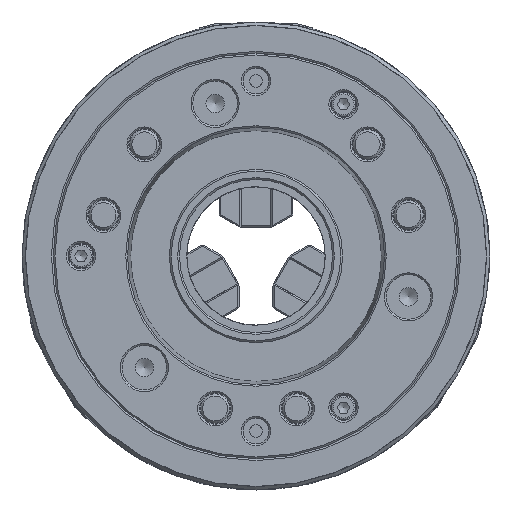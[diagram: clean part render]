
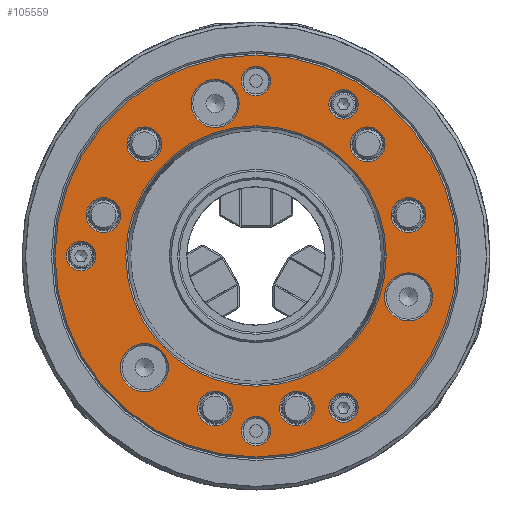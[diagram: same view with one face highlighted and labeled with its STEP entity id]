
A CAD part, front view. The second image highlights one B-rep face of the part: STEP entity #105559.
In plain terms, the highlighted planar face has unit normal (0, -1, 0).
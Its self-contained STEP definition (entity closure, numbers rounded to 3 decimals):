
#28893=FACE_BOUND('',#37678,.T.);
#28894=FACE_BOUND('',#37679,.T.);
#28895=FACE_BOUND('',#37680,.T.);
#28896=FACE_BOUND('',#37681,.T.);
#28897=FACE_BOUND('',#37682,.T.);
#28898=FACE_BOUND('',#37683,.T.);
#28899=FACE_BOUND('',#37684,.T.);
#28900=FACE_BOUND('',#37685,.T.);
#28901=FACE_BOUND('',#37686,.T.);
#28902=FACE_BOUND('',#37687,.T.);
#28903=FACE_BOUND('',#37688,.T.);
#28904=FACE_BOUND('',#37689,.T.);
#28905=FACE_BOUND('',#37690,.T.);
#28906=FACE_BOUND('',#37691,.T.);
#28907=FACE_BOUND('',#37692,.T.);
#32424=FACE_OUTER_BOUND('',#37677,.T.);
#37677=EDGE_LOOP('',(#88712));
#37678=EDGE_LOOP('',(#88713));
#37679=EDGE_LOOP('',(#88714));
#37680=EDGE_LOOP('',(#88715));
#37681=EDGE_LOOP('',(#88716));
#37682=EDGE_LOOP('',(#88717));
#37683=EDGE_LOOP('',(#88718));
#37684=EDGE_LOOP('',(#88719));
#37685=EDGE_LOOP('',(#88720));
#37686=EDGE_LOOP('',(#88721));
#37687=EDGE_LOOP('',(#88722));
#37688=EDGE_LOOP('',(#88723));
#37689=EDGE_LOOP('',(#88724));
#37690=EDGE_LOOP('',(#88725));
#37691=EDGE_LOOP('',(#88726));
#37692=EDGE_LOOP('',(#88727));
#40226=CIRCLE('',#113276,109.1);
#40230=CIRCLE('',#113290,70.693);
#40233=CIRCLE('',#113295,7.95);
#40234=CIRCLE('',#113297,9.45);
#40235=CIRCLE('',#113299,9.45);
#40236=CIRCLE('',#113301,13.05);
#40237=CIRCLE('',#113303,7.95);
#40238=CIRCLE('',#113305,9.45);
#40239=CIRCLE('',#113307,9.45);
#40240=CIRCLE('',#113309,9.45);
#40241=CIRCLE('',#113311,9.45);
#40242=CIRCLE('',#113313,13.05);
#40243=CIRCLE('',#113315,13.05);
#40244=CIRCLE('',#113317,7.95);
#40245=CIRCLE('',#113319,7.95);
#40246=CIRCLE('',#113321,7.95);
#47610=VERTEX_POINT('',#169364);
#47614=VERTEX_POINT('',#169382);
#47617=VERTEX_POINT('',#169390);
#47618=VERTEX_POINT('',#169393);
#47619=VERTEX_POINT('',#169396);
#47620=VERTEX_POINT('',#169399);
#47621=VERTEX_POINT('',#169402);
#47622=VERTEX_POINT('',#169405);
#47623=VERTEX_POINT('',#169408);
#47624=VERTEX_POINT('',#169411);
#47625=VERTEX_POINT('',#169414);
#47626=VERTEX_POINT('',#169417);
#47627=VERTEX_POINT('',#169420);
#47628=VERTEX_POINT('',#169423);
#47629=VERTEX_POINT('',#169426);
#47630=VERTEX_POINT('',#169429);
#61838=EDGE_CURVE('',#47610,#47610,#40226,.T.);
#61842=EDGE_CURVE('',#47614,#47614,#40230,.T.);
#61845=EDGE_CURVE('',#47617,#47617,#40233,.T.);
#61846=EDGE_CURVE('',#47618,#47618,#40234,.T.);
#61847=EDGE_CURVE('',#47619,#47619,#40235,.T.);
#61848=EDGE_CURVE('',#47620,#47620,#40236,.T.);
#61849=EDGE_CURVE('',#47621,#47621,#40237,.T.);
#61850=EDGE_CURVE('',#47622,#47622,#40238,.T.);
#61851=EDGE_CURVE('',#47623,#47623,#40239,.T.);
#61852=EDGE_CURVE('',#47624,#47624,#40240,.T.);
#61853=EDGE_CURVE('',#47625,#47625,#40241,.T.);
#61854=EDGE_CURVE('',#47626,#47626,#40242,.T.);
#61855=EDGE_CURVE('',#47627,#47627,#40243,.T.);
#61856=EDGE_CURVE('',#47628,#47628,#40244,.T.);
#61857=EDGE_CURVE('',#47629,#47629,#40245,.T.);
#61858=EDGE_CURVE('',#47630,#47630,#40246,.T.);
#88712=ORIENTED_EDGE('',*,*,#61838,.T.);
#88713=ORIENTED_EDGE('',*,*,#61858,.T.);
#88714=ORIENTED_EDGE('',*,*,#61857,.T.);
#88715=ORIENTED_EDGE('',*,*,#61856,.T.);
#88716=ORIENTED_EDGE('',*,*,#61855,.T.);
#88717=ORIENTED_EDGE('',*,*,#61854,.T.);
#88718=ORIENTED_EDGE('',*,*,#61853,.T.);
#88719=ORIENTED_EDGE('',*,*,#61852,.T.);
#88720=ORIENTED_EDGE('',*,*,#61851,.T.);
#88721=ORIENTED_EDGE('',*,*,#61850,.T.);
#88722=ORIENTED_EDGE('',*,*,#61849,.T.);
#88723=ORIENTED_EDGE('',*,*,#61848,.T.);
#88724=ORIENTED_EDGE('',*,*,#61847,.T.);
#88725=ORIENTED_EDGE('',*,*,#61846,.T.);
#88726=ORIENTED_EDGE('',*,*,#61845,.T.);
#88727=ORIENTED_EDGE('',*,*,#61842,.T.);
#101140=PLANE('',#113323);
#105559=ADVANCED_FACE('',(#32424,#28893,#28894,#28895,#28896,#28897,#28898,
#28899,#28900,#28901,#28902,#28903,#28904,#28905,#28906,#28907),#101140,
 .T.);
#113276=AXIS2_PLACEMENT_3D('',#169365,#136295,#136296);
#113290=AXIS2_PLACEMENT_3D('',#169383,#136323,#136324);
#113295=AXIS2_PLACEMENT_3D('',#169391,#136333,#136334);
#113297=AXIS2_PLACEMENT_3D('',#169394,#136337,#136338);
#113299=AXIS2_PLACEMENT_3D('',#169397,#136341,#136342);
#113301=AXIS2_PLACEMENT_3D('',#169400,#136345,#136346);
#113303=AXIS2_PLACEMENT_3D('',#169403,#136349,#136350);
#113305=AXIS2_PLACEMENT_3D('',#169406,#136353,#136354);
#113307=AXIS2_PLACEMENT_3D('',#169409,#136357,#136358);
#113309=AXIS2_PLACEMENT_3D('',#169412,#136361,#136362);
#113311=AXIS2_PLACEMENT_3D('',#169415,#136365,#136366);
#113313=AXIS2_PLACEMENT_3D('',#169418,#136369,#136370);
#113315=AXIS2_PLACEMENT_3D('',#169421,#136373,#136374);
#113317=AXIS2_PLACEMENT_3D('',#169424,#136377,#136378);
#113319=AXIS2_PLACEMENT_3D('',#169427,#136381,#136382);
#113321=AXIS2_PLACEMENT_3D('',#169430,#136385,#136386);
#113323=AXIS2_PLACEMENT_3D('',#169432,#136389,#136390);
#136295=DIRECTION('center_axis',(0.,-1.,0.));
#136296=DIRECTION('ref_axis',(-0.814,0.,0.581));
#136323=DIRECTION('center_axis',(0.,1.,0.));
#136324=DIRECTION('ref_axis',(-0.814,0.,-0.581));
#136333=DIRECTION('center_axis',(0.,1.,0.));
#136334=DIRECTION('ref_axis',(-0.814,0.,
-0.581));
#136337=DIRECTION('center_axis',(0.,1.,0.));
#136338=DIRECTION('ref_axis',(-0.814,0.,-0.581));
#136341=DIRECTION('center_axis',(0.,1.,0.));
#136342=DIRECTION('ref_axis',(0.814,0.,0.581));
#136345=DIRECTION('center_axis',(0.,1.,0.));
#136346=DIRECTION('ref_axis',(0.814,0.,0.581));
#136349=DIRECTION('center_axis',(0.,1.,0.));
#136350=DIRECTION('ref_axis',(-0.814,0.,
-0.581));
#136353=DIRECTION('center_axis',(0.,1.,0.));
#136354=DIRECTION('ref_axis',(-0.096,0.,0.995));
#136357=DIRECTION('center_axis',(0.,1.,0.));
#136358=DIRECTION('ref_axis',(0.91,0.,-0.414));
#136361=DIRECTION('center_axis',(0.,1.,0.));
#136362=DIRECTION('ref_axis',(0.096,0.,-0.995));
#136365=DIRECTION('center_axis',(0.,1.,0.));
#136366=DIRECTION('ref_axis',(-0.91,0.,0.414));
#136369=DIRECTION('center_axis',(0.,1.,0.));
#136370=DIRECTION('ref_axis',(0.096,0.,-0.995));
#136373=DIRECTION('center_axis',(0.,1.,0.));
#136374=DIRECTION('ref_axis',(-0.91,0.,
0.414));
#136377=DIRECTION('center_axis',(0.,1.,0.));
#136378=DIRECTION('ref_axis',(-0.096,0.,
0.995));
#136381=DIRECTION('center_axis',(0.,1.,0.));
#136382=DIRECTION('ref_axis',(0.91,0.,-0.414));
#136385=DIRECTION('center_axis',(0.,1.,0.));
#136386=DIRECTION('ref_axis',(0.814,0.,0.581));
#136389=DIRECTION('center_axis',(0.,-1.,0.));
#136390=DIRECTION('ref_axis',(0.,0.,-1.));
#169364=CARTESIAN_POINT('',(-109.1,-13.,0.));
#169365=CARTESIAN_POINT('Origin',(0.,-13.,0.));
#169382=CARTESIAN_POINT('',(-70.693,-13.,0.));
#169383=CARTESIAN_POINT('Origin',(0.,-13.,0.));
#169390=CARTESIAN_POINT('',(-7.95,-13.,-95.));
#169391=CARTESIAN_POINT('Origin',(0.,-13.,-95.));
#169393=CARTESIAN_POINT('',(-31.631,-13.,-82.78));
#169394=CARTESIAN_POINT('Origin',(-22.181,-13.,-82.78));
#169396=CARTESIAN_POINT('',(31.631,-13.,-82.78));
#169397=CARTESIAN_POINT('Origin',(22.181,-13.,-82.78));
#169399=CARTESIAN_POINT('',(-47.549,-13.,-60.599));
#169400=CARTESIAN_POINT('Origin',(-60.599,-13.,-60.599));
#169402=CARTESIAN_POINT('',(-102.95,-13.,0.));
#169403=CARTESIAN_POINT('Origin',(-95.,-13.,0.));
#169405=CARTESIAN_POINT('',(-55.874,-13.,68.783));
#169406=CARTESIAN_POINT('Origin',(-60.599,-13.,60.599));
#169408=CARTESIAN_POINT('',(87.505,-13.,13.997));
#169409=CARTESIAN_POINT('Origin',(82.78,-13.,22.181));
#169411=CARTESIAN_POINT('',(-87.505,-13.,13.997));
#169412=CARTESIAN_POINT('Origin',(-82.78,-13.,22.181));
#169414=CARTESIAN_POINT('',(55.874,-13.,68.783));
#169415=CARTESIAN_POINT('Origin',(60.599,-13.,60.599));
#169417=CARTESIAN_POINT('',(-28.706,-13.,71.478));
#169418=CARTESIAN_POINT('Origin',(-22.181,-13.,82.78));
#169420=CARTESIAN_POINT('',(76.255,-13.,-10.879));
#169421=CARTESIAN_POINT('Origin',(82.78,-13.,-22.181));
#169423=CARTESIAN_POINT('',(51.475,-13.,89.157));
#169424=CARTESIAN_POINT('Origin',(47.5,-13.,82.272));
#169426=CARTESIAN_POINT('',(51.475,-13.,-89.157));
#169427=CARTESIAN_POINT('Origin',(47.5,-13.,-82.272));
#169429=CARTESIAN_POINT('',(7.95,-13.,95.));
#169430=CARTESIAN_POINT('Origin',(0.,-13.,95.));
#169432=CARTESIAN_POINT('Origin',(109.1,-13.,0.));
